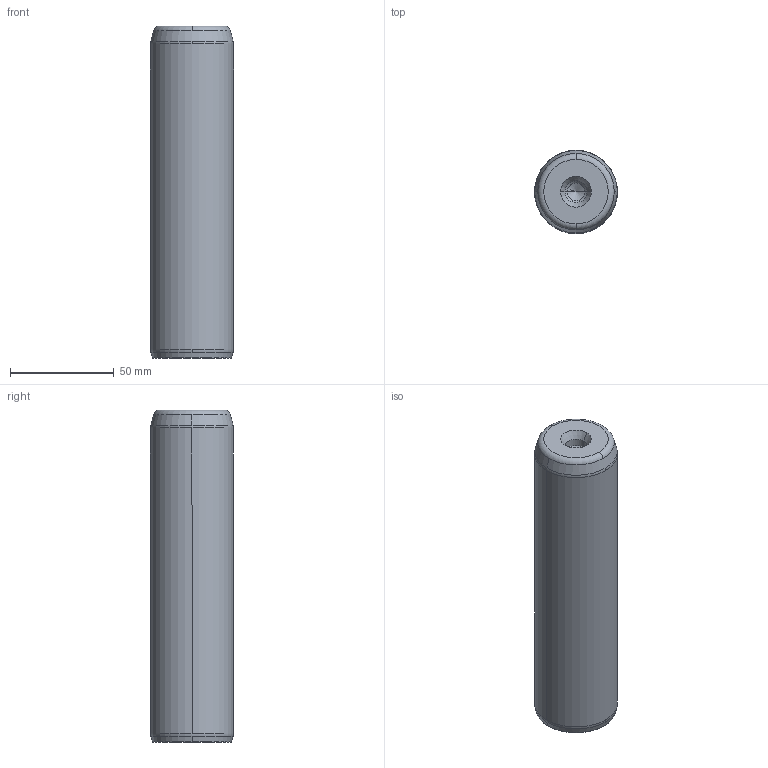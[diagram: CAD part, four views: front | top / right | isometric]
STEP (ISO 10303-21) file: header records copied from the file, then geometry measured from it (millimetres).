
FILE_DESCRIPTION((''),'2;1');
FILE_NAME('P10_040_160.stp','2008-12-23T15:23:30',(''),(''),'Mechanical Desktop 2009','Mechanical Desktop 2009',', , ');
FILE_SCHEMA(('CONFIG_CONTROL_DESIGN'));
Length unit declared in the file: millimetre
Products named in the file (5): Product; ProductAA; blmdl1; ProductA; blmdl1A
Assembly tree (2 placements, depth 3):
  Product
    ProductAA
      blmdl1
  ProductA
  blmdl1A
Bounding box: 40 x 40 x 160 mm (x, y, z)
Volume: 197557.8 mm3; surface area: 22950 mm2
Topology: 1 solids, 1 shells, 26 faces, 66 edges, 41 vertices
Faces by surface type: cone 10, torus 8, cylinder 6, plane 2
Entity records: 1012 total; most frequent: DIRECTION 170, CARTESIAN_POINT 134, ORIENTED_EDGE 128, AXIS2_PLACEMENT_3D 77, EDGE_CURVE 64, CIRCLE 48, VERTEX_POINT 41, EDGE_LOOP 27
